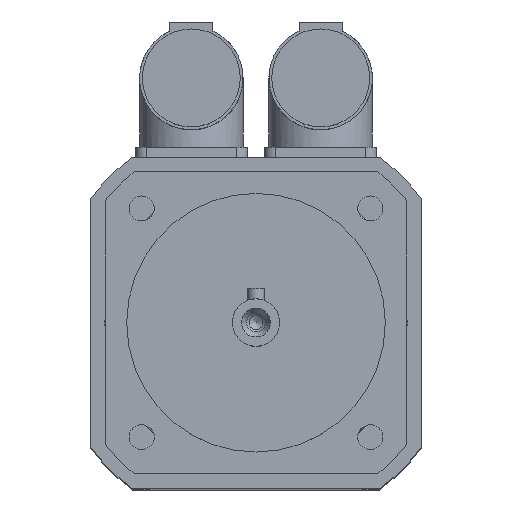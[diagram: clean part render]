
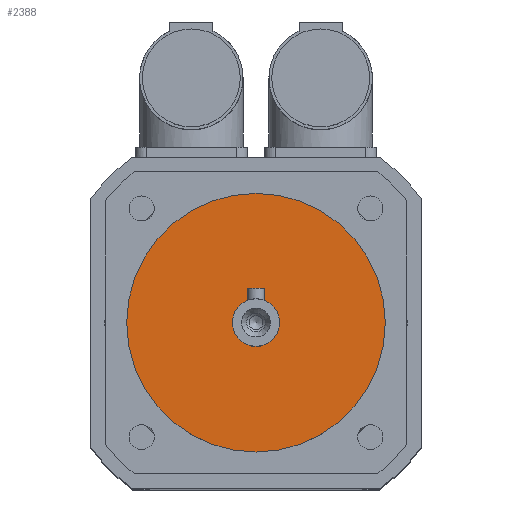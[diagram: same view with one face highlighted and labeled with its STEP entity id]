
A CAD part, top view. The second image highlights one B-rep face of the part: STEP entity #2388.
In plain terms, the highlighted planar face has unit normal (0, 0, 1).
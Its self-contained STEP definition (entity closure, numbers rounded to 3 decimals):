
#484=PLANE('',#2572);
#601=FACE_BOUND('',#819,.T.);
#665=FACE_OUTER_BOUND('',#818,.T.);
#818=EDGE_LOOP('',(#1867));
#819=EDGE_LOOP('',(#1868));
#965=CIRCLE('',#2571,5.5);
#966=CIRCLE('',#2573,30.);
#1130=VERTEX_POINT('',#3794);
#1131=VERTEX_POINT('',#3797);
#1405=EDGE_CURVE('',#1130,#1130,#965,.T.);
#1406=EDGE_CURVE('',#1131,#1131,#966,.T.);
#1867=ORIENTED_EDGE('',*,*,#1406,.F.);
#1868=ORIENTED_EDGE('',*,*,#1405,.T.);
#2388=ADVANCED_FACE('',(#665,#601),#484,.T.);
#2571=AXIS2_PLACEMENT_3D('',#3795,#2996,#2997);
#2572=AXIS2_PLACEMENT_3D('',#3796,#2998,#2999);
#2573=AXIS2_PLACEMENT_3D('',#3798,#3000,#3001);
#2996=DIRECTION('center_axis',(0.,0.,-1.));
#2997=DIRECTION('ref_axis',(1.,0.,0.));
#2998=DIRECTION('center_axis',(0.,0.,1.));
#2999=DIRECTION('ref_axis',(1.,0.,0.));
#3000=DIRECTION('center_axis',(0.,0.,-1.));
#3001=DIRECTION('ref_axis',(1.,0.,0.));
#3794=CARTESIAN_POINT('',(0.,5.5,161.));
#3795=CARTESIAN_POINT('Origin',(0.,0.,161.));
#3796=CARTESIAN_POINT('Origin',(0.,30.,161.));
#3797=CARTESIAN_POINT('',(0.,30.,161.));
#3798=CARTESIAN_POINT('Origin',(0.,0.,161.));
